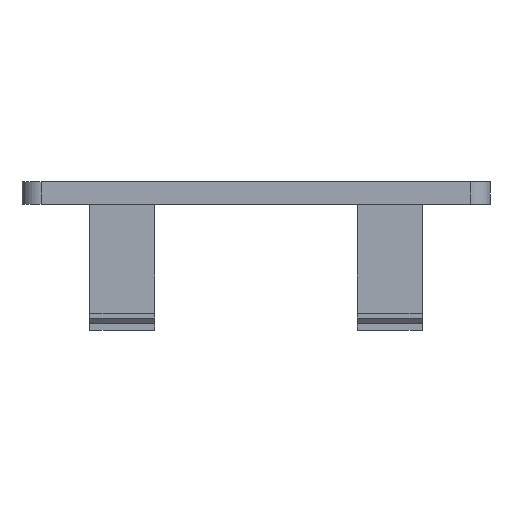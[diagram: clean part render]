
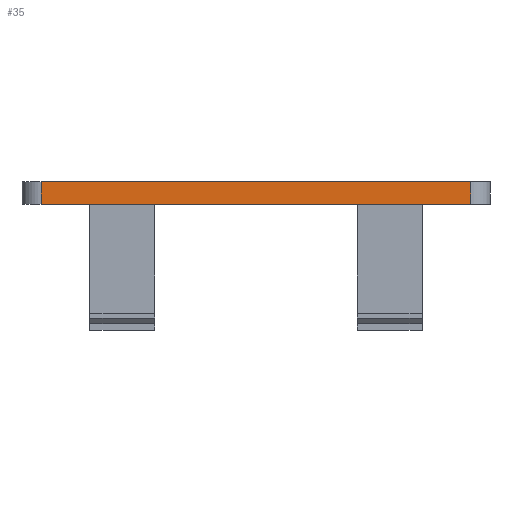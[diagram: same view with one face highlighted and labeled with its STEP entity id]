
A CAD part, left-side view. The second image highlights one B-rep face of the part: STEP entity #35.
In plain terms, the highlighted planar face has unit normal (-1, 0, 0).
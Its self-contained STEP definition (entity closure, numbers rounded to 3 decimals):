
#35 = ADVANCED_FACE('',(#36),#50,.F.);
#36 = FACE_BOUND('',#37,.F.);
#37 = EDGE_LOOP('',(#38,#73,#101,#129));
#38 = ORIENTED_EDGE('',*,*,#39,.F.);
#39 = EDGE_CURVE('',#40,#42,#44,.T.);
#40 = VERTEX_POINT('',#41);
#41 = CARTESIAN_POINT('',(-36.,-11.25,50.8));
#42 = VERTEX_POINT('',#43);
#43 = CARTESIAN_POINT('',(-36.,11.25,50.8));
#44 = SURFACE_CURVE('',#45,(#49,#61),.PCURVE_S1.);
#45 = LINE('',#46,#47);
#46 = CARTESIAN_POINT('',(-36.,-12.25,50.8));
#47 = VECTOR('',#48,1.);
#48 = DIRECTION('',(0.,1.,0.));
#49 = PCURVE('',#50,#55);
#50 = PLANE('',#51);
#51 = AXIS2_PLACEMENT_3D('',#52,#53,#54);
#52 = CARTESIAN_POINT('',(-36.,-12.25,49.6));
#53 = DIRECTION('',(1.,0.,0.));
#54 = DIRECTION('',(0.,0.,1.));
#55 = DEFINITIONAL_REPRESENTATION('',(#56),#60);
#56 = LINE('',#57,#58);
#57 = CARTESIAN_POINT('',(1.2,0.));
#58 = VECTOR('',#59,1.);
#59 = DIRECTION('',(0.,-1.));
#60 = ( GEOMETRIC_REPRESENTATION_CONTEXT(2) 
PARAMETRIC_REPRESENTATION_CONTEXT() REPRESENTATION_CONTEXT('2D SPACE',''
  ) );
#61 = PCURVE('',#62,#67);
#62 = PLANE('',#63);
#63 = AXIS2_PLACEMENT_3D('',#64,#65,#66);
#64 = CARTESIAN_POINT('',(-36.,-12.25,50.8));
#65 = DIRECTION('',(0.,0.,1.));
#66 = DIRECTION('',(1.,0.,0.));
#67 = DEFINITIONAL_REPRESENTATION('',(#68),#72);
#68 = LINE('',#69,#70);
#69 = CARTESIAN_POINT('',(0.,0.));
#70 = VECTOR('',#71,1.);
#71 = DIRECTION('',(0.,1.));
#72 = ( GEOMETRIC_REPRESENTATION_CONTEXT(2) 
PARAMETRIC_REPRESENTATION_CONTEXT() REPRESENTATION_CONTEXT('2D SPACE',''
  ) );
#73 = ORIENTED_EDGE('',*,*,#74,.F.);
#74 = EDGE_CURVE('',#75,#40,#77,.T.);
#75 = VERTEX_POINT('',#76);
#76 = CARTESIAN_POINT('',(-36.,-11.25,49.6));
#77 = SURFACE_CURVE('',#78,(#82,#89),.PCURVE_S1.);
#78 = LINE('',#79,#80);
#79 = CARTESIAN_POINT('',(-36.,-11.25,49.6));
#80 = VECTOR('',#81,1.);
#81 = DIRECTION('',(0.,0.,1.));
#82 = PCURVE('',#50,#83);
#83 = DEFINITIONAL_REPRESENTATION('',(#84),#88);
#84 = LINE('',#85,#86);
#85 = CARTESIAN_POINT('',(0.,-1.));
#86 = VECTOR('',#87,1.);
#87 = DIRECTION('',(1.,0.));
#88 = ( GEOMETRIC_REPRESENTATION_CONTEXT(2) 
PARAMETRIC_REPRESENTATION_CONTEXT() REPRESENTATION_CONTEXT('2D SPACE',''
  ) );
#89 = PCURVE('',#90,#95);
#90 = CYLINDRICAL_SURFACE('',#91,1.);
#91 = AXIS2_PLACEMENT_3D('',#92,#93,#94);
#92 = CARTESIAN_POINT('',(-35.,-11.25,49.6));
#93 = DIRECTION('',(0.,0.,1.));
#94 = DIRECTION('',(-1.,-0.,0.));
#95 = DEFINITIONAL_REPRESENTATION('',(#96),#100);
#96 = LINE('',#97,#98);
#97 = CARTESIAN_POINT('',(0.,0.));
#98 = VECTOR('',#99,1.);
#99 = DIRECTION('',(0.,1.));
#100 = ( GEOMETRIC_REPRESENTATION_CONTEXT(2) 
PARAMETRIC_REPRESENTATION_CONTEXT() REPRESENTATION_CONTEXT('2D SPACE',''
  ) );
#101 = ORIENTED_EDGE('',*,*,#102,.T.);
#102 = EDGE_CURVE('',#75,#103,#105,.T.);
#103 = VERTEX_POINT('',#104);
#104 = CARTESIAN_POINT('',(-36.,11.25,49.6));
#105 = SURFACE_CURVE('',#106,(#110,#117),.PCURVE_S1.);
#106 = LINE('',#107,#108);
#107 = CARTESIAN_POINT('',(-36.,-12.25,49.6));
#108 = VECTOR('',#109,1.);
#109 = DIRECTION('',(0.,1.,0.));
#110 = PCURVE('',#50,#111);
#111 = DEFINITIONAL_REPRESENTATION('',(#112),#116);
#112 = LINE('',#113,#114);
#113 = CARTESIAN_POINT('',(0.,0.));
#114 = VECTOR('',#115,1.);
#115 = DIRECTION('',(0.,-1.));
#116 = ( GEOMETRIC_REPRESENTATION_CONTEXT(2) 
PARAMETRIC_REPRESENTATION_CONTEXT() REPRESENTATION_CONTEXT('2D SPACE',''
  ) );
#117 = PCURVE('',#118,#123);
#118 = PLANE('',#119);
#119 = AXIS2_PLACEMENT_3D('',#120,#121,#122);
#120 = CARTESIAN_POINT('',(-36.,-12.25,49.6));
#121 = DIRECTION('',(0.,0.,1.));
#122 = DIRECTION('',(1.,0.,0.));
#123 = DEFINITIONAL_REPRESENTATION('',(#124),#128);
#124 = LINE('',#125,#126);
#125 = CARTESIAN_POINT('',(0.,0.));
#126 = VECTOR('',#127,1.);
#127 = DIRECTION('',(0.,1.));
#128 = ( GEOMETRIC_REPRESENTATION_CONTEXT(2) 
PARAMETRIC_REPRESENTATION_CONTEXT() REPRESENTATION_CONTEXT('2D SPACE',''
  ) );
#129 = ORIENTED_EDGE('',*,*,#130,.T.);
#130 = EDGE_CURVE('',#103,#42,#131,.T.);
#131 = SURFACE_CURVE('',#132,(#136,#143),.PCURVE_S1.);
#132 = LINE('',#133,#134);
#133 = CARTESIAN_POINT('',(-36.,11.25,49.6));
#134 = VECTOR('',#135,1.);
#135 = DIRECTION('',(0.,0.,1.));
#136 = PCURVE('',#50,#137);
#137 = DEFINITIONAL_REPRESENTATION('',(#138),#142);
#138 = LINE('',#139,#140);
#139 = CARTESIAN_POINT('',(0.,-23.5));
#140 = VECTOR('',#141,1.);
#141 = DIRECTION('',(1.,0.));
#142 = ( GEOMETRIC_REPRESENTATION_CONTEXT(2) 
PARAMETRIC_REPRESENTATION_CONTEXT() REPRESENTATION_CONTEXT('2D SPACE',''
  ) );
#143 = PCURVE('',#144,#149);
#144 = CYLINDRICAL_SURFACE('',#145,1.);
#145 = AXIS2_PLACEMENT_3D('',#146,#147,#148);
#146 = CARTESIAN_POINT('',(-35.,11.25,49.6));
#147 = DIRECTION('',(0.,0.,1.));
#148 = DIRECTION('',(-1.,-0.,0.));
#149 = DEFINITIONAL_REPRESENTATION('',(#150),#154);
#150 = LINE('',#151,#152);
#151 = CARTESIAN_POINT('',(-0.,0.));
#152 = VECTOR('',#153,1.);
#153 = DIRECTION('',(-0.,1.));
#154 = ( GEOMETRIC_REPRESENTATION_CONTEXT(2) 
PARAMETRIC_REPRESENTATION_CONTEXT() REPRESENTATION_CONTEXT('2D SPACE',''
  ) );
